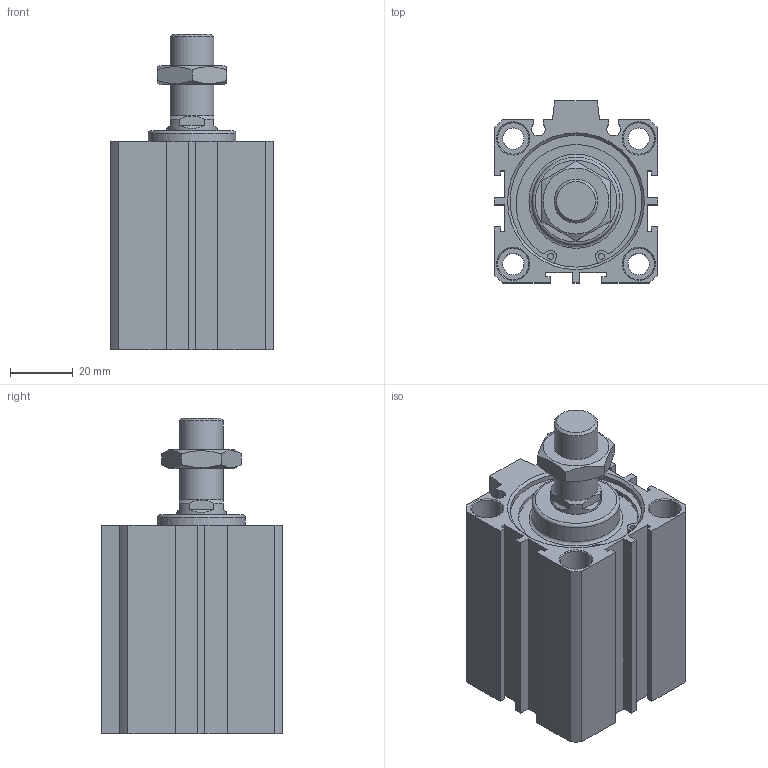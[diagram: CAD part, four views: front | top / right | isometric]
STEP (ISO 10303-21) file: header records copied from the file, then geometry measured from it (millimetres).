
FILE_DESCRIPTION((''),'2;1');
FILE_NAME('I:\3D電子目錄\氣缸\JD\JD-BS\JD40-BS\JD40\JD40x30-BS.stp','2007-08-06T08:50:48',('66-2f-008'),(''),'Autodesk Inventor 11','Autodesk Inventor 11','');
FILE_SCHEMA(('AUTOMOTIVE_DESIGN { 1 0 10303 214 1 1 1 1 }'));
Length unit declared in the file: millimetre
Products named in the file (3): JD40x30-BS; JD040x30-BS; R 形環 42
Assembly tree (3 placements, depth 2):
  JD40x30-BS
    JD040x30-BS
    R 形環 42  x2
Bounding box: 52 x 58 x 100.5 mm (x, y, z)
Volume: 160638.1 mm3; surface area: 37890.7 mm2
Topology: 3 solids, 3 shells, 169 faces, 401 edges, 261 vertices
Faces by surface type: plane 97, cylinder 47, cone 21, bspline 2, torus 2
Full cylindrical faces by diameter (mm): 1.9 x4, 2.2 x2, 6.8 x4, 10 x8, 14 x2, 16 x1, 28 x1, 29 x1, 42 x4, 44.5 x2
Entity records: 4385 total; most frequent: CARTESIAN_POINT 843, DIRECTION 730, ORIENTED_EDGE 634, EDGE_CURVE 317, AXIS2_PLACEMENT_3D 272, EDGE_LOOP 240, VERTEX_POINT 235, VECTOR 186
